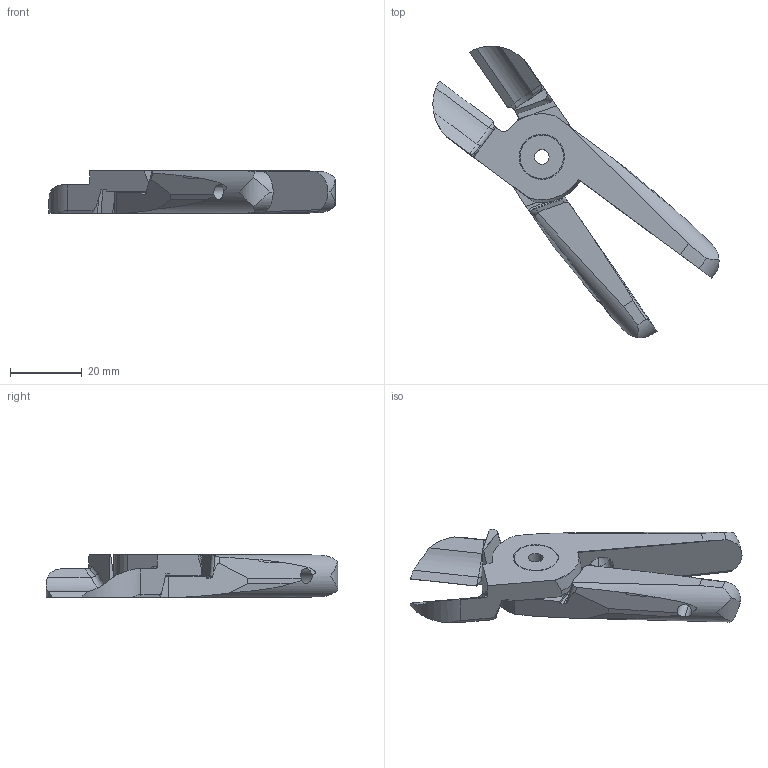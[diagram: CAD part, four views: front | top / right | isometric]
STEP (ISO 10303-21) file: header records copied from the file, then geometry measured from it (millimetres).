
FILE_DESCRIPTION((''),'2;1');
FILE_NAME('GPT-20-SI.stp','2006-09-26T13:22:32',(''),(''),'Mechanical Desktop 2005','Mechanical Desktop 2005',', , ');
FILE_SCHEMA(('CONFIG_CONTROL_DESIGN'));
Length unit declared in the file: inch
Products named in the file (5): GPT-20-SI; 20SIS; 20SIO; 9PRIVIT; 9PRIVITA
Assembly tree (4 placements, depth 3):
  GPT-20-SI
    20SIS
    20SIO
    9PRIVIT
      9PRIVITA
Bounding box: 79.99 x 81.48 x 11.86 mm (x, y, z)
Volume: 16389.8 mm3; surface area: 9340.6 mm2
Topology: 3 solids, 3 shells, 180 faces, 489 edges, 312 vertices
Faces by surface type: cylinder 80, plane 56, cone 25, bspline 14, torus 5
Entity records: 7075 total; most frequent: CARTESIAN_POINT 2435, ORIENTED_EDGE 970, DIRECTION 936, EDGE_CURVE 485, AXIS2_PLACEMENT_3D 358, VERTEX_POINT 312, VECTOR 220, LINE 220
